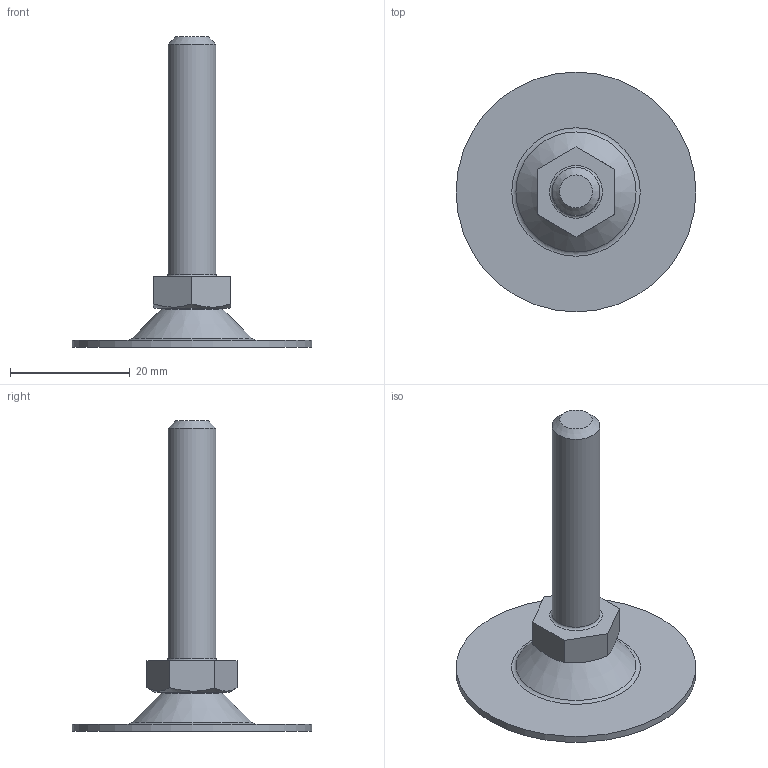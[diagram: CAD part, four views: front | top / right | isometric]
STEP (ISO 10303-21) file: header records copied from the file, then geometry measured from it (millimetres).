
FILE_DESCRIPTION(('STEP AP203'), '1');
FILE_NAME('A00050.1040816', '', ('UNSPECIFIED'), ('UNSPECIFIED'), 'C3D Converter', 'C3D Toolkit', '');
FILE_SCHEMA(('CONFIG_CONTROL_DESIGN'));
Length unit declared in the file: millimetre
Products named in the file (4): A00050.1040840; A00050.1040
Assembly tree (3 placements, depth 2):
  A00050.1040840
    A00050.1040
    (unnamed)
    (unnamed)
Bounding box: 40 x 40 x 51.78 mm (x, y, z)
Volume: 4427.8 mm3; surface area: 4781.3 mm2
Topology: 3 solids, 3 shells, 58 faces, 130 edges, 82 vertices
Faces by surface type: plane 28, torus 8, bspline 8, cone 7, cylinder 6, sphere 1
Full cylindrical faces by diameter (mm): 3.3 x1, 4 x1, 4.5 x1, 8 x2, 40 x1
Entity records: 2171 total; most frequent: CARTESIAN_POINT 784, DIRECTION 242, ORIENTED_EDGE 214, EDGE_CURVE 107, AXIS2_PLACEMENT_3D 95, EDGE_LOOP 86, VERTEX_POINT 81, ADVANCED_FACE 58
